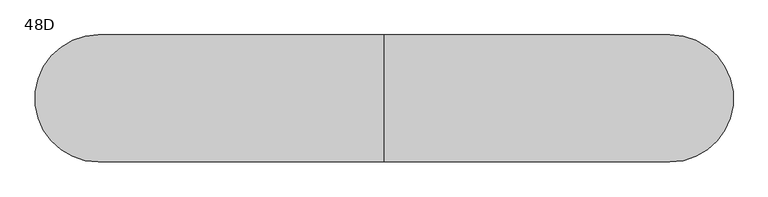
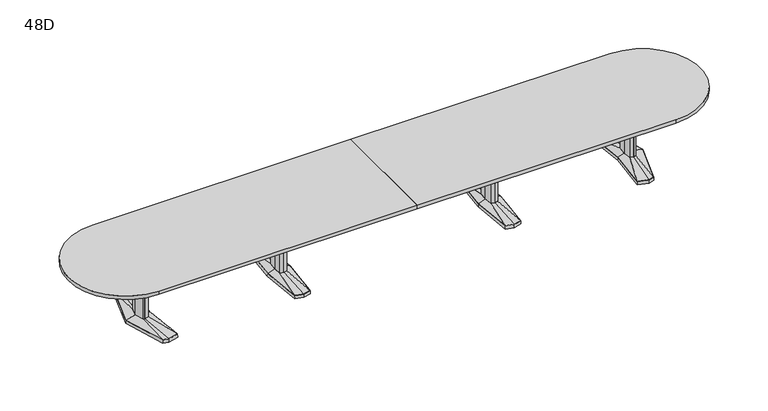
"""IFC4 building model written with IfcOpenShell, lengths in millimetres: furniture geometry, Coalesse_AM_Table_Conference_ETable2_Racetrack_22ft_AluminiumBase : 48D."""

from ifc_helpers import new_model, si_unit, point, frame, frame_2d, origin, place, context, project, spatial, polyline, circle_curve, trimmed, segment, composite_curve, outline, extrude, faceted_brep, source, transform, mapped, element, save
from ifc_brep_helpers import plane_surface, spline_surface, advanced_brep


def furniture_48d_4654b211(model_context):
    return source(origin(), model_context, "Body", "SolidModel", [
        faceted_brep([(1036.3666209, -433.8053819, 38.1), (1117.6, -455.556576, 38.1), (1198.8333791, -433.8053819, 38.1), (1236.6564774, 0.0, 38.1), (1198.8333791, 433.8053819, 38.1), (1117.6, 455.556576, 38.1), (1036.3666209, 433.8053819, 38.1), (998.5435226, 0.0, 38.1), (1034.8817205, -435.0512063, 3.175), (996.95, 0.0, 3.175), (1034.8817205, 435.0512063, 3.175), (1117.6, 457.2, 3.175), (1200.3182795, 435.0512063, 3.175), (1238.25, 0.0, 3.175), (1200.3182795, -435.0512063, 3.175), (1117.6, -457.2, 3.175), (1117.6, 429.2617927, 3.175), (1039.6323194, 408.3850278, 3.175), (1042.8980179, 382.9646737, 3.175), (1117.6, 402.9670094, 3.175), (1192.3019821, 382.9646737, 3.175), (1195.5676806, 408.3850278, 3.175), (1117.6, -429.2617927, 3.175), (1195.5676806, -408.3850278, 3.175), (1192.3019821, -382.9646737, 3.175), (1117.6, -402.9670094, 3.175), (1042.8980179, -382.9646737, 3.175), (1039.6323194, -408.3850278, 3.175), (1045.7425738, 114.6326257, 3.175), (1035.0573924, 0.0, 3.175), (1045.7425738, -114.6326257, 3.175), (1117.6, -133.8761372, 3.175), (1189.4574262, -114.6326257, 3.175), (1200.1426076, 0.0, 3.175), (1189.4574262, 114.6326257, 3.175), (1117.6, 133.8761372, 3.175), (1117.6, 429.2617927, 0.0), (1195.5676806, 408.3850278, 0.0), (1192.3019821, 382.9646737, 0.0), (1117.6, 402.9670094, 0.0), (1042.8980179, 382.9646737, 0.0), (1039.6323194, 408.3850278, 0.0), (1117.6, -429.2617927, 0.0), (1039.6323194, -408.3850278, 0.0), (1042.8980179, -382.9646737, 0.0), (1117.6, -402.9670094, 0.0), (1192.3019821, -382.9646737, 0.0), (1195.5676806, -408.3850278, 0.0), (1045.7425738, 114.6326257, 0.0), (1117.6, 133.8761372, 0.0), (1189.4574262, 114.6326257, 0.0), (1200.1426076, 0.0, 0.0), (1189.4574262, -114.6326257, 0.0), (1117.6, -133.8761372, 0.0), (1045.7425738, -114.6326257, 0.0), (1035.0573924, 0.0, 0.0)], [[[0, 1, 2, 3, 4, 5, 6, 7]], [[8, 9, 10, 11, 12, 13, 14, 15], [16, 17, 18, 19, 20, 21], [22, 23, 24, 25, 26, 27], [28, 29, 30, 31, 32, 33, 34, 35]], [[1, 0, 8, 15]], [[2, 1, 15, 14]], [[3, 2, 14, 13]], [[4, 3, 13, 12]], [[5, 4, 12, 11]], [[6, 5, 11, 10]], [[7, 6, 10, 9]], [[0, 7, 9, 8]], [[36, 37, 38, 39, 40, 41]], [[42, 43, 44, 45, 46, 47]], [[48, 49, 50, 51, 52, 53, 54, 55]], [[36, 41, 17, 16]], [[41, 40, 18, 17]], [[40, 39, 19, 18]], [[39, 38, 20, 19]], [[38, 37, 21, 20]], [[37, 36, 16, 21]], [[42, 47, 23, 22]], [[47, 46, 24, 23]], [[46, 45, 25, 24]], [[45, 44, 26, 25]], [[44, 43, 27, 26]], [[43, 42, 22, 27]], [[48, 55, 29, 28]], [[55, 54, 30, 29]], [[54, 53, 31, 30]], [[53, 52, 32, 31]], [[52, 51, 33, 32]], [[51, 50, 34, 33]], [[50, 49, 35, 34]], [[49, 48, 28, 35]]]),
        faceted_brep([(1081.2167166, 84.6900825, 698.5), (1073.3225513, 0.0, 698.5), (1081.2167166, -84.6900825, 698.5), (1117.6, -94.4335728, 698.5), (1153.9832834, -84.6900825, 698.5), (1161.8774487, 0.0, 698.5), (1153.9832834, 84.6900825, 698.5), (1117.6, 94.4335728, 698.5), (1081.2167166, 84.6900825, 63.5), (1117.6, 94.4335728, 63.5), (1153.9832834, 84.6900825, 63.5), (1161.8774487, 0.0, 63.5), (1153.9832834, -84.6900825, 63.5), (1117.6, -94.4335728, 63.5), (1081.2167166, -84.6900825, 63.5), (1073.3225513, 0.0, 63.5)], [[[0, 1, 2, 3, 4, 5, 6, 7]], [[8, 9, 10, 11, 12, 13, 14, 15]], [[1, 0, 8, 15]], [[2, 1, 15, 14]], [[3, 2, 14, 13]], [[4, 3, 13, 12]], [[5, 4, 12, 11]], [[6, 5, 11, 10]], [[7, 6, 10, 9]], [[0, 7, 9, 8]]]),
        advanced_brep(
        [(1081.2167166, 84.6900825, 63.5), (1073.3225513, 0.0, 63.5), (1081.2167166, -84.6900825, 63.5), (1117.6, -94.4335728, 63.5), (1153.9832834, -84.6900825, 63.5), (1161.8774487, 0.0, 63.5), (1153.9832834, 84.6900825, 63.5), (1117.6, 94.4335728, 63.5), (1036.3666209, 433.8053819, 38.1), (1117.6, 455.556576, 38.1), (1198.8333791, 433.8053819, 38.1), (1236.6564774, 0.0, 38.1), (1198.8333791, -433.8053819, 38.1), (1117.6, -455.556576, 38.1), (1036.3666209, -433.8053819, 38.1), (998.5435226, 0.0, 38.1)],
        [
            (0, 1),
            (1, 2),
            (2, 3),
            (3, 4),
            (4, 5),
            (5, 6),
            (6, 7),
            (7, 0),
            (8, 9),
            (9, 10),
            (10, 11),
            (11, 12),
            (12, 13),
            (13, 14),
            (14, 15),
            (15, 8),
            (15, 1),
            (0, 8),
            (14, 2),
            (13, 3),
            (12, 4),
            (11, 5),
            (10, 6),
            (9, 7),
        ],
        [
            plane_surface(frame((1117.6, 0.0, 63.5), z_axis=(0.0, 0.0, 1.0000000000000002), x_axis=(-0.9659615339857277, -0.25868574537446, 0.0))),
            plane_surface(frame((1117.6, 0.0, 38.1), z_axis=(0.0, 0.0, -1.0000000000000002), x_axis=(-0.9659615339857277, -0.25868574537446, 0.0))),
            spline_surface(1, 1, [[(1036.3666209, 433.8053819, 38.1), (1081.2167166, 84.6900825, 63.5)], [(998.5435226, 0.0, 38.1), (1073.3225513, 0.0, 63.5)]], [2, 2], [2, 2], [0.0, 1.0], [0.0, 1.0]),
            spline_surface(1, 1, [[(998.5435226, 0.0, 38.1), (1073.3225513, 0.0, 63.5)], [(1036.3666209, -433.8053819, 38.1), (1081.2167166, -84.6900825, 63.5)]], [2, 2], [2, 2], [0.0, 1.0], [0.0, 1.0]),
            spline_surface(1, 1, [[(1036.3666209, -433.8053819, 38.1), (1081.2167166, -84.6900825, 63.5)], [(1117.6, -455.556576, 38.1), (1117.6, -94.4335728, 63.5)]], [2, 2], [2, 2], [0.0, 1.0], [0.0, 1.0]),
            spline_surface(1, 1, [[(1117.6, -455.556576, 38.1), (1117.6, -94.4335728, 63.5)], [(1198.8333791, -433.8053819, 38.1), (1153.9832834, -84.6900825, 63.5)]], [2, 2], [2, 2], [0.0, 1.0], [0.0, 1.0]),
            spline_surface(1, 1, [[(1198.8333791, -433.8053819, 38.1), (1153.9832834, -84.6900825, 63.5)], [(1236.6564774, 0.0, 38.1), (1161.8774487, 0.0, 63.5)]], [2, 2], [2, 2], [0.0, 1.0], [0.0, 1.0]),
            spline_surface(1, 1, [[(1236.6564774, 0.0, 38.1), (1161.8774487, 0.0, 63.5)], [(1198.8333791, 433.8053819, 38.1), (1153.9832834, 84.6900825, 63.5)]], [2, 2], [2, 2], [0.0, 1.0], [0.0, 1.0]),
            spline_surface(1, 1, [[(1198.8333791, 433.8053819, 38.1), (1153.9832834, 84.6900825, 63.5)], [(1117.6, 455.556576, 38.1), (1117.6, 94.4335728, 63.5)]], [2, 2], [2, 2], [0.0, 1.0], [0.0, 1.0]),
            spline_surface(1, 1, [[(1117.6, 455.556576, 38.1), (1117.6, 94.4335728, 63.5)], [(1036.3666209, 433.8053819, 38.1), (1081.2167166, 84.6900825, 63.5)]], [2, 2], [2, 2], [0.0, 1.0], [0.0, 1.0]),
        ],
        [
            (0, [[1, 2, 3, 4, 5, 6, 7, 8]]),
            (1, [[9, 10, 11, 12, 13, 14, 15, 16]]),
            (2, [[-16, 17, -1, 18]]),
            (3, [[-15, 19, -2, -17]]),
            (4, [[-14, 20, -3, -19]]),
            (5, [[-13, 21, -4, -20]]),
            (6, [[-12, 22, -5, -21]]),
            (7, [[-11, 23, -6, -22]]),
            (8, [[-10, 24, -7, -23]]),
            (9, [[-9, -18, -8, -24]]),
        ],
    ),
        faceted_brep([(-1198.8333791, -433.8053819, 38.1), (-1117.6, -455.556576, 38.1), (-1036.3666209, -433.8053819, 38.1), (-998.5435226, 0.0, 38.1), (-1036.3666209, 433.8053819, 38.1), (-1117.6, 455.556576, 38.1), (-1198.8333791, 433.8053819, 38.1), (-1236.6564774, 0.0, 38.1), (-1200.3182795, -435.0512063, 3.175), (-1238.25, 0.0, 3.175), (-1200.3182795, 435.0512063, 3.175), (-1117.6, 457.2, 3.175), (-1034.8817205, 435.0512063, 3.175), (-996.95, 0.0, 3.175), (-1034.8817205, -435.0512063, 3.175), (-1117.6, -457.2, 3.175), (-1117.6, 429.2617927, 3.175), (-1195.5676806, 408.3850278, 3.175), (-1192.3019821, 382.9646737, 3.175), (-1117.6, 402.9670094, 3.175), (-1042.8980179, 382.9646737, 3.175), (-1039.6323194, 408.3850278, 3.175), (-1117.6, -429.2617927, 3.175), (-1039.6323194, -408.3850278, 3.175), (-1042.8980179, -382.9646737, 3.175), (-1117.6, -402.9670094, 3.175), (-1192.3019821, -382.9646737, 3.175), (-1195.5676806, -408.3850278, 3.175), (-1189.4574262, 114.6326257, 3.175), (-1200.1426076, 0.0, 3.175), (-1189.4574262, -114.6326257, 3.175), (-1117.6, -133.8761372, 3.175), (-1045.7425738, -114.6326257, 3.175), (-1035.0573924, 0.0, 3.175), (-1045.7425738, 114.6326257, 3.175), (-1117.6, 133.8761372, 3.175), (-1117.6, 429.2617927, 0.0), (-1039.6323194, 408.3850278, 0.0), (-1042.8980179, 382.9646737, 0.0), (-1117.6, 402.9670094, 0.0), (-1192.3019821, 382.9646737, 0.0), (-1195.5676806, 408.3850278, 0.0), (-1117.6, -429.2617927, 0.0), (-1195.5676806, -408.3850278, 0.0), (-1192.3019821, -382.9646737, 0.0), (-1117.6, -402.9670094, 0.0), (-1042.8980179, -382.9646737, 0.0), (-1039.6323194, -408.3850278, 0.0), (-1189.4574262, 114.6326257, 0.0), (-1117.6, 133.8761372, 0.0), (-1045.7425738, 114.6326257, 0.0), (-1035.0573924, 0.0, 0.0), (-1045.7425738, -114.6326257, 0.0), (-1117.6, -133.8761372, 0.0), (-1189.4574262, -114.6326257, 0.0), (-1200.1426076, 0.0, 0.0)], [[[0, 1, 2, 3, 4, 5, 6, 7]], [[8, 9, 10, 11, 12, 13, 14, 15], [16, 17, 18, 19, 20, 21], [22, 23, 24, 25, 26, 27], [28, 29, 30, 31, 32, 33, 34, 35]], [[1, 0, 8, 15]], [[2, 1, 15, 14]], [[3, 2, 14, 13]], [[4, 3, 13, 12]], [[5, 4, 12, 11]], [[6, 5, 11, 10]], [[7, 6, 10, 9]], [[0, 7, 9, 8]], [[36, 37, 38, 39, 40, 41]], [[42, 43, 44, 45, 46, 47]], [[48, 49, 50, 51, 52, 53, 54, 55]], [[36, 41, 17, 16]], [[41, 40, 18, 17]], [[40, 39, 19, 18]], [[39, 38, 20, 19]], [[38, 37, 21, 20]], [[37, 36, 16, 21]], [[42, 47, 23, 22]], [[47, 46, 24, 23]], [[46, 45, 25, 24]], [[45, 44, 26, 25]], [[44, 43, 27, 26]], [[43, 42, 22, 27]], [[48, 55, 29, 28]], [[55, 54, 30, 29]], [[54, 53, 31, 30]], [[53, 52, 32, 31]], [[52, 51, 33, 32]], [[51, 50, 34, 33]], [[50, 49, 35, 34]], [[49, 48, 28, 35]]]),
        faceted_brep([(-1153.9832834, 84.6900825, 698.5), (-1161.8774487, 0.0, 698.5), (-1153.9832834, -84.6900825, 698.5), (-1117.6, -94.4335728, 698.5), (-1081.2167166, -84.6900825, 698.5), (-1073.3225513, 0.0, 698.5), (-1081.2167166, 84.6900825, 698.5), (-1117.6, 94.4335728, 698.5), (-1153.9832834, 84.6900825, 63.5), (-1117.6, 94.4335728, 63.5), (-1081.2167166, 84.6900825, 63.5), (-1073.3225513, 0.0, 63.5), (-1081.2167166, -84.6900825, 63.5), (-1117.6, -94.4335728, 63.5), (-1153.9832834, -84.6900825, 63.5), (-1161.8774487, 0.0, 63.5)], [[[0, 1, 2, 3, 4, 5, 6, 7]], [[8, 9, 10, 11, 12, 13, 14, 15]], [[1, 0, 8, 15]], [[2, 1, 15, 14]], [[3, 2, 14, 13]], [[4, 3, 13, 12]], [[5, 4, 12, 11]], [[6, 5, 11, 10]], [[7, 6, 10, 9]], [[0, 7, 9, 8]]]),
        advanced_brep(
        [(-1153.9832834, 84.6900825, 63.5), (-1161.8774487, 0.0, 63.5), (-1153.9832834, -84.6900825, 63.5), (-1117.6, -94.4335728, 63.5), (-1081.2167166, -84.6900825, 63.5), (-1073.3225513, 0.0, 63.5), (-1081.2167166, 84.6900825, 63.5), (-1117.6, 94.4335728, 63.5), (-1198.8333791, 433.8053819, 38.1), (-1117.6, 455.556576, 38.1), (-1036.3666209, 433.8053819, 38.1), (-998.5435226, 0.0, 38.1), (-1036.3666209, -433.8053819, 38.1), (-1117.6, -455.556576, 38.1), (-1198.8333791, -433.8053819, 38.1), (-1236.6564774, 0.0, 38.1)],
        [
            (0, 1),
            (1, 2),
            (2, 3),
            (3, 4),
            (4, 5),
            (5, 6),
            (6, 7),
            (7, 0),
            (8, 9),
            (9, 10),
            (10, 11),
            (11, 12),
            (12, 13),
            (13, 14),
            (14, 15),
            (15, 8),
            (15, 1),
            (0, 8),
            (14, 2),
            (13, 3),
            (12, 4),
            (11, 5),
            (10, 6),
            (9, 7),
        ],
        [
            plane_surface(frame((-1117.6, 0.0, 63.5), z_axis=(0.0, 0.0, 1.0000000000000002), x_axis=(-0.9659615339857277, -0.25868574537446, 0.0))),
            plane_surface(frame((-1117.6, 0.0, 38.1), z_axis=(0.0, 0.0, -1.0000000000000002), x_axis=(-0.9659615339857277, -0.25868574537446, 0.0))),
            spline_surface(1, 1, [[(-1198.8333791, 433.8053819, 38.1), (-1153.9832834, 84.6900825, 63.5)], [(-1236.6564774, 0.0, 38.1), (-1161.8774487, 0.0, 63.5)]], [2, 2], [2, 2], [0.0, 1.0], [0.0, 1.0]),
            spline_surface(1, 1, [[(-1236.6564774, 0.0, 38.1), (-1161.8774487, 0.0, 63.5)], [(-1198.8333791, -433.8053819, 38.1), (-1153.9832834, -84.6900825, 63.5)]], [2, 2], [2, 2], [0.0, 1.0], [0.0, 1.0]),
            spline_surface(1, 1, [[(-1198.8333791, -433.8053819, 38.1), (-1153.9832834, -84.6900825, 63.5)], [(-1117.6, -455.556576, 38.1), (-1117.6, -94.4335728, 63.5)]], [2, 2], [2, 2], [0.0, 1.0], [0.0, 1.0]),
            spline_surface(1, 1, [[(-1117.6, -455.556576, 38.1), (-1117.6, -94.4335728, 63.5)], [(-1036.3666209, -433.8053819, 38.1), (-1081.2167166, -84.6900825, 63.5)]], [2, 2], [2, 2], [0.0, 1.0], [0.0, 1.0]),
            spline_surface(1, 1, [[(-1036.3666209, -433.8053819, 38.1), (-1081.2167166, -84.6900825, 63.5)], [(-998.5435226, 0.0, 38.1), (-1073.3225513, 0.0, 63.5)]], [2, 2], [2, 2], [0.0, 1.0], [0.0, 1.0]),
            spline_surface(1, 1, [[(-998.5435226, 0.0, 38.1), (-1073.3225513, 0.0, 63.5)], [(-1036.3666209, 433.8053819, 38.1), (-1081.2167166, 84.6900825, 63.5)]], [2, 2], [2, 2], [0.0, 1.0], [0.0, 1.0]),
            spline_surface(1, 1, [[(-1036.3666209, 433.8053819, 38.1), (-1081.2167166, 84.6900825, 63.5)], [(-1117.6, 455.556576, 38.1), (-1117.6, 94.4335728, 63.5)]], [2, 2], [2, 2], [0.0, 1.0], [0.0, 1.0]),
            spline_surface(1, 1, [[(-1117.6, 455.556576, 38.1), (-1117.6, 94.4335728, 63.5)], [(-1198.8333791, 433.8053819, 38.1), (-1153.9832834, 84.6900825, 63.5)]], [2, 2], [2, 2], [0.0, 1.0], [0.0, 1.0]),
        ],
        [
            (0, [[1, 2, 3, 4, 5, 6, 7, 8]]),
            (1, [[9, 10, 11, 12, 13, 14, 15, 16]]),
            (2, [[-16, 17, -1, 18]]),
            (3, [[-15, 19, -2, -17]]),
            (4, [[-14, 20, -3, -19]]),
            (5, [[-13, 21, -4, -20]]),
            (6, [[-12, 22, -5, -21]]),
            (7, [[-11, 23, -6, -22]]),
            (8, [[-10, 24, -7, -23]]),
            (9, [[-9, -18, -8, -24]]),
        ],
    ),
        faceted_brep([(2548.0994335, 455.5848221, 38.1), (2438.5218777, 426.2263816, 38.1), (2479.6851217, 0.0, 38.1), (2438.5218777, -426.2263816, 38.1), (2548.0994335, -455.5848221, 38.1), (2604.2257896, -440.5478297, 38.1), (2741.5371769, 0.0, 38.1), (2604.2257896, 440.5478297, 38.1), (2548.0994254, 457.2283104, 3.175), (2605.4811972, 441.8549756, 3.175), (2743.2, 0.0, 3.175), (2605.4811972, -441.8549756, 3.175), (2548.0994254, -457.2283104, 3.175), (2436.8125, -427.4118891, 3.175), (2478.0902356, 0.0, 3.175), (2436.8125, 427.4118891, 3.175), (2551.688865, 428.3273875, 3.175), (2446.6405728, 402.1057253, 3.175), (2454.759268, 377.985069, 3.175), (2555.2782966, 401.0699529, 3.175), (2605.8379225, 387.524361, 3.175), (2605.0318561, 414.0360954, 3.175), (2551.688865, -428.3273875, 3.175), (2605.0318561, -414.0360954, 3.175), (2605.8379225, -387.524361, 3.175), (2555.2782966, -401.0699529, 3.175), (2454.759268, -377.985069, 3.175), (2446.6405728, -402.1057253, 3.175), (2678.2841121, 0.0, 3.175), (2646.0147111, 120.4193755, 3.175), (2597.3674722, 133.471665, 3.175), (2517.4868026, 119.4176561, 3.175), (2506.3555966, 0.0, 3.175), (2517.4868026, -119.4176561, 3.175), (2597.3674722, -133.471665, 3.175), (2646.0147111, -120.4193755, 3.175), (2551.688865, 428.3273875, 0.0), (2605.0318561, 414.0360954, 0.0), (2605.8379225, 387.524361, 0.0), (2555.2782966, 401.0699529, 0.0), (2454.759268, 377.985069, 0.0), (2446.6405728, 402.1057253, 0.0), (2551.688865, -428.3273875, 0.0), (2446.6405728, -402.1057253, 0.0), (2454.759268, -377.985069, 0.0), (2555.2782966, -401.0699529, 0.0), (2605.8379225, -387.524361, 0.0), (2605.0318561, -414.0360954, 0.0), (2678.2841121, 0.0, 0.0), (2646.0147111, -120.4193755, 0.0), (2597.3674722, -133.471665, 0.0), (2517.4868026, -119.4176561, 0.0), (2506.3555966, 0.0, 0.0), (2517.4868026, 119.4176561, 0.0), (2597.3674722, 133.471665, 0.0), (2646.0147111, 120.4193755, 0.0)], [[[0, 1, 2, 3, 4, 5, 6, 7]], [[8, 9, 10, 11, 12, 13, 14, 15], [16, 17, 18, 19, 20, 21], [22, 23, 24, 25, 26, 27], [28, 29, 30, 31, 32, 33, 34, 35]], [[7, 9, 8, 0]], [[6, 10, 9, 7]], [[5, 11, 10, 6]], [[4, 12, 11, 5]], [[3, 13, 12, 4]], [[2, 14, 13, 3]], [[1, 15, 14, 2]], [[0, 8, 15, 1]], [[36, 37, 38, 39, 40, 41]], [[42, 43, 44, 45, 46, 47]], [[48, 49, 50, 51, 52, 53, 54, 55]], [[36, 16, 21, 37]], [[37, 21, 20, 38]], [[38, 20, 19, 39]], [[39, 19, 18, 40]], [[40, 18, 17, 41]], [[41, 17, 16, 36]], [[42, 22, 27, 43]], [[43, 27, 26, 44]], [[44, 26, 25, 45]], [[45, 25, 24, 46]], [[46, 24, 23, 47]], [[47, 23, 22, 42]], [[48, 28, 35, 49]], [[49, 35, 34, 50]], [[50, 34, 33, 51]], [[51, 33, 32, 52]], [[52, 32, 31, 53]], [[53, 31, 30, 54]], [[54, 30, 29, 55]], [[55, 29, 28, 48]]]),
        faceted_brep([(2638.8398336, 0.0, 698.5), (2614.9046046, 89.3188359, 698.5), (2598.0512484, 93.8406728, 698.5), (2595.6514011, 94.4845635, 698.5), (2552.723896, 86.9320037, 698.5), (2544.6207556, 0.0, 698.5), (2552.723896, -86.9320037, 698.5), (2595.6514011, -94.4845635, 698.5), (2598.0512484, -93.8406728, 698.5), (2614.9046046, -89.3188359, 698.5), (2638.8398336, 0.0, 63.5), (2614.9046046, -89.3188359, 63.5), (2598.0512484, -93.8406728, 63.5), (2595.6514011, -94.4845635, 63.5), (2552.723896, -86.9320037, 63.5), (2544.6207556, 0.0, 63.5), (2552.723896, 86.9320037, 63.5), (2595.6514011, 94.4845635, 63.5), (2598.0512484, 93.8406728, 63.5), (2614.9046046, 89.3188359, 63.5)], [[[0, 1, 2, 3, 4, 5, 6, 7, 8, 9]], [[10, 11, 12, 13, 14, 15, 16, 17, 18, 19]], [[9, 11, 10, 0]], [[8, 12, 11, 9]], [[7, 13, 12, 8]], [[6, 14, 13, 7]], [[5, 15, 14, 6]], [[4, 16, 15, 5]], [[3, 17, 16, 4]], [[2, 18, 17, 3]], [[1, 19, 18, 2]], [[0, 10, 19, 1]]]),
        advanced_brep(
        [(2595.6514011, 94.4845635, 63.5), (2552.723896, 86.9320037, 63.5), (2544.6207556, 0.0, 63.5), (2552.723896, -86.9320037, 63.5), (2595.6514011, -94.4845635, 63.5), (2614.9046046, -89.3188359, 63.5), (2638.8398336, 0.0, 63.5), (2614.9046046, 89.3188359, 63.5), (2548.0994335, 455.5848221, 38.1), (2604.2257896, 440.5478297, 38.1), (2741.5371769, 0.0, 38.1), (2604.2257896, -440.5478297, 38.1), (2548.0994335, -455.5848221, 38.1), (2438.5218777, -426.2263816, 38.1), (2479.6851217, 0.0, 38.1), (2438.5218777, 426.2263816, 38.1)],
        [
            (0, 1),
            (1, 2),
            (2, 3),
            (3, 4),
            (4, 5),
            (5, 6),
            (6, 7),
            (7, 0),
            (8, 9),
            (9, 10),
            (10, 11),
            (11, 12),
            (12, 13),
            (13, 14),
            (14, 15),
            (15, 8),
            (8, 0),
            (7, 9),
            (6, 10),
            (5, 11),
            (4, 12),
            (3, 13),
            (2, 14),
            (1, 15),
        ],
        [
            plane_surface(frame((2588.7525491, 0.0, 63.5), z_axis=(0.0, 0.0, 1.0), x_axis=(-0.25884244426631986, -0.9659195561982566, 0.0))),
            plane_surface(frame((2550.3645625, 0.0, 38.1), z_axis=(0.0, 0.0, -1.0), x_axis=(-0.25884244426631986, -0.9659195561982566, 0.0))),
            spline_surface(1, 1, [[(2548.0994335, 455.5848221, 38.1), (2604.2257896, 440.5478297, 38.1)], [(2595.6514011, 94.4845635, 63.5), (2614.9046046, 89.3188359, 63.5)]], [2, 2], [2, 2], [0.0, 1.0], [0.0, 1.0]),
            spline_surface(1, 1, [[(2604.2257896, 440.5478297, 38.1), (2741.5371769, 0.0, 38.1)], [(2614.9046046, 89.3188359, 63.5), (2638.8398336, 0.0, 63.5)]], [2, 2], [2, 2], [0.0, 1.0], [0.0, 1.0]),
            spline_surface(1, 1, [[(2741.5371769, 0.0, 38.1), (2604.2257896, -440.5478297, 38.1)], [(2638.8398336, 0.0, 63.5), (2614.9046046, -89.3188359, 63.5)]], [2, 2], [2, 2], [0.0, 1.0], [0.0, 1.0]),
            spline_surface(1, 1, [[(2604.2257896, -440.5478297, 38.1), (2548.0994335, -455.5848221, 38.1)], [(2614.9046046, -89.3188359, 63.5), (2595.6514011, -94.4845635, 63.5)]], [2, 2], [2, 2], [0.0, 1.0], [0.0, 1.0]),
            spline_surface(1, 1, [[(2548.0994335, -455.5848221, 38.1), (2438.5218777, -426.2263816, 38.1)], [(2595.6514011, -94.4845635, 63.5), (2552.723896, -86.9320037, 63.5)]], [2, 2], [2, 2], [0.0, 1.0], [0.0, 1.0]),
            spline_surface(1, 1, [[(2438.5218777, -426.2263816, 38.1), (2479.6851217, 0.0, 38.1)], [(2552.723896, -86.9320037, 63.5), (2544.6207556, 0.0, 63.5)]], [2, 2], [2, 2], [0.0, 1.0], [0.0, 1.0]),
            spline_surface(1, 1, [[(2479.6851217, 0.0, 38.1), (2438.5218777, 426.2263816, 38.1)], [(2544.6207556, 0.0, 63.5), (2552.723896, 86.9320037, 63.5)]], [2, 2], [2, 2], [0.0, 1.0], [0.0, 1.0]),
            spline_surface(1, 1, [[(2438.5218777, 426.2263816, 38.1), (2548.0994335, 455.5848221, 38.1)], [(2552.723896, 86.9320037, 63.5), (2595.6514011, 94.4845635, 63.5)]], [2, 2], [2, 2], [0.0, 1.0], [0.0, 1.0]),
        ],
        [
            (0, [[1, 2, 3, 4, 5, 6, 7, 8]]),
            (1, [[9, 10, 11, 12, 13, 14, 15, 16]]),
            (2, [[17, -8, 18, -9]]),
            (3, [[-18, -7, 19, -10]]),
            (4, [[-19, -6, 20, -11]]),
            (5, [[-20, -5, 21, -12]]),
            (6, [[-21, -4, 22, -13]]),
            (7, [[-22, -3, 23, -14]]),
            (8, [[-23, -2, 24, -15]]),
            (9, [[-24, -1, -17, -16]]),
        ],
    ),
        faceted_brep([(-2548.0994335, 455.5848221, 38.1), (-2604.2257896, 440.5478297, 38.1), (-2741.5371769, 0.0, 38.1), (-2604.2257896, -440.5478297, 38.1), (-2548.0994335, -455.5848221, 38.1), (-2438.5218777, -426.2263816, 38.1), (-2479.6851217, 0.0, 38.1), (-2438.5218777, 426.2263816, 38.1), (-2548.0994254, 457.2283104, 3.175), (-2436.8125, 427.4118891, 3.175), (-2478.0902356, 0.0, 3.175), (-2436.8125, -427.4118891, 3.175), (-2548.0994254, -457.2283104, 3.175), (-2605.4811972, -441.8549756, 3.175), (-2743.2, 0.0, 3.175), (-2605.4811972, 441.8549756, 3.175), (-2551.688865, 428.3273875, 3.175), (-2605.0318561, 414.0360954, 3.175), (-2605.8379225, 387.524361, 3.175), (-2555.2782966, 401.0699529, 3.175), (-2454.759268, 377.985069, 3.175), (-2446.6405728, 402.1057253, 3.175), (-2551.688865, -428.3273875, 3.175), (-2446.6405728, -402.1057253, 3.175), (-2454.759268, -377.985069, 3.175), (-2555.2782966, -401.0699529, 3.175), (-2605.8379225, -387.524361, 3.175), (-2605.0318561, -414.0360954, 3.175), (-2678.2841121, 0.0, 3.175), (-2646.0147111, -120.4193755, 3.175), (-2597.3674722, -133.471665, 3.175), (-2517.4868026, -119.4176561, 3.175), (-2506.3555966, 0.0, 3.175), (-2517.4868026, 119.4176561, 3.175), (-2597.3674722, 133.471665, 3.175), (-2646.0147111, 120.4193755, 3.175), (-2551.688865, 428.3273875, 0.0), (-2446.6405728, 402.1057253, 0.0), (-2454.759268, 377.985069, 0.0), (-2555.2782966, 401.0699529, 0.0), (-2605.8379225, 387.524361, 0.0), (-2605.0318561, 414.0360954, 0.0), (-2551.688865, -428.3273875, 0.0), (-2605.0318561, -414.0360954, 0.0), (-2605.8379225, -387.524361, 0.0), (-2555.2782966, -401.0699529, 0.0), (-2454.759268, -377.985069, 0.0), (-2446.6405728, -402.1057253, 0.0), (-2678.2841121, 0.0, 0.0), (-2646.0147111, 120.4193755, 0.0), (-2597.3674722, 133.471665, 0.0), (-2517.4868026, 119.4176561, 0.0), (-2506.3555966, 0.0, 0.0), (-2517.4868026, -119.4176561, 0.0), (-2597.3674722, -133.471665, 0.0), (-2646.0147111, -120.4193755, 0.0)], [[[0, 1, 2, 3, 4, 5, 6, 7]], [[8, 9, 10, 11, 12, 13, 14, 15], [16, 17, 18, 19, 20, 21], [22, 23, 24, 25, 26, 27], [28, 29, 30, 31, 32, 33, 34, 35]], [[1, 0, 8, 15]], [[2, 1, 15, 14]], [[3, 2, 14, 13]], [[4, 3, 13, 12]], [[5, 4, 12, 11]], [[6, 5, 11, 10]], [[7, 6, 10, 9]], [[0, 7, 9, 8]], [[36, 37, 38, 39, 40, 41]], [[42, 43, 44, 45, 46, 47]], [[48, 49, 50, 51, 52, 53, 54, 55]], [[36, 41, 17, 16]], [[41, 40, 18, 17]], [[40, 39, 19, 18]], [[39, 38, 20, 19]], [[38, 37, 21, 20]], [[37, 36, 16, 21]], [[42, 47, 23, 22]], [[47, 46, 24, 23]], [[46, 45, 25, 24]], [[45, 44, 26, 25]], [[44, 43, 27, 26]], [[43, 42, 22, 27]], [[48, 55, 29, 28]], [[55, 54, 30, 29]], [[54, 53, 31, 30]], [[53, 52, 32, 31]], [[52, 51, 33, 32]], [[51, 50, 34, 33]], [[50, 49, 35, 34]], [[49, 48, 28, 35]]]),
        faceted_brep([(-2638.8398336, 0.0, 698.5), (-2614.9046046, -89.3188359, 698.5), (-2598.0512484, -93.8406728, 698.5), (-2595.6514011, -94.4845635, 698.5), (-2552.723896, -86.9320037, 698.5), (-2544.6207556, 0.0, 698.5), (-2552.723896, 86.9320037, 698.5), (-2595.6514011, 94.4845635, 698.5), (-2598.0512484, 93.8406728, 698.5), (-2614.9046046, 89.3188359, 698.5), (-2638.8398336, 0.0, 63.5), (-2614.9046046, 89.3188359, 63.5), (-2598.0512484, 93.8406728, 63.5), (-2595.6514011, 94.4845635, 63.5), (-2552.723896, 86.9320037, 63.5), (-2544.6207556, 0.0, 63.5), (-2552.723896, -86.9320037, 63.5), (-2595.6514011, -94.4845635, 63.5), (-2598.0512484, -93.8406728, 63.5), (-2614.9046046, -89.3188359, 63.5)], [[[0, 1, 2, 3, 4, 5, 6, 7, 8, 9]], [[10, 11, 12, 13, 14, 15, 16, 17, 18, 19]], [[1, 0, 10, 19]], [[2, 1, 19, 18]], [[3, 2, 18, 17]], [[4, 3, 17, 16]], [[5, 4, 16, 15]], [[6, 5, 15, 14]], [[7, 6, 14, 13]], [[8, 7, 13, 12]], [[9, 8, 12, 11]], [[0, 9, 11, 10]]]),
        advanced_brep(
        [(-2595.6514011, 94.4845635, 63.5), (-2614.9046046, 89.3188359, 63.5), (-2638.8398336, 0.0, 63.5), (-2614.9046046, -89.3188359, 63.5), (-2595.6514011, -94.4845635, 63.5), (-2552.723896, -86.9320037, 63.5), (-2544.6207556, 0.0, 63.5), (-2552.723896, 86.9320037, 63.5), (-2548.0994335, 455.5848221, 38.1), (-2438.5218777, 426.2263816, 38.1), (-2479.6851217, 0.0, 38.1), (-2438.5218777, -426.2263816, 38.1), (-2548.0994335, -455.5848221, 38.1), (-2604.2257896, -440.5478297, 38.1), (-2741.5371769, 0.0, 38.1), (-2604.2257896, 440.5478297, 38.1)],
        [
            (0, 1),
            (1, 2),
            (2, 3),
            (3, 4),
            (4, 5),
            (5, 6),
            (6, 7),
            (7, 0),
            (8, 9),
            (9, 10),
            (10, 11),
            (11, 12),
            (12, 13),
            (13, 14),
            (14, 15),
            (15, 8),
            (15, 1),
            (0, 8),
            (14, 2),
            (13, 3),
            (12, 4),
            (11, 5),
            (10, 6),
            (9, 7),
        ],
        [
            plane_surface(frame((-2588.7525491, 0.0, 63.5), z_axis=(0.0, 0.0, 1.0), x_axis=(0.25884244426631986, -0.9659195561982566, 0.0))),
            plane_surface(frame((-2550.3645625, 0.0, 38.1), z_axis=(0.0, 0.0, -1.0), x_axis=(0.25884244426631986, -0.9659195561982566, 0.0))),
            spline_surface(1, 1, [[(-2548.0994335, 455.5848221, 38.1), (-2595.6514011, 94.4845635, 63.5)], [(-2604.2257896, 440.5478297, 38.1), (-2614.9046046, 89.3188359, 63.5)]], [2, 2], [2, 2], [0.0, 1.0], [0.0, 1.0]),
            spline_surface(1, 1, [[(-2604.2257896, 440.5478297, 38.1), (-2614.9046046, 89.3188359, 63.5)], [(-2741.5371769, 0.0, 38.1), (-2638.8398336, 0.0, 63.5)]], [2, 2], [2, 2], [0.0, 1.0], [0.0, 1.0]),
            spline_surface(1, 1, [[(-2741.5371769, 0.0, 38.1), (-2638.8398336, 0.0, 63.5)], [(-2604.2257896, -440.5478297, 38.1), (-2614.9046046, -89.3188359, 63.5)]], [2, 2], [2, 2], [0.0, 1.0], [0.0, 1.0]),
            spline_surface(1, 1, [[(-2604.2257896, -440.5478297, 38.1), (-2614.9046046, -89.3188359, 63.5)], [(-2548.0994335, -455.5848221, 38.1), (-2595.6514011, -94.4845635, 63.5)]], [2, 2], [2, 2], [0.0, 1.0], [0.0, 1.0]),
            spline_surface(1, 1, [[(-2548.0994335, -455.5848221, 38.1), (-2595.6514011, -94.4845635, 63.5)], [(-2438.5218777, -426.2263816, 38.1), (-2552.723896, -86.9320037, 63.5)]], [2, 2], [2, 2], [0.0, 1.0], [0.0, 1.0]),
            spline_surface(1, 1, [[(-2438.5218777, -426.2263816, 38.1), (-2552.723896, -86.9320037, 63.5)], [(-2479.6851217, 0.0, 38.1), (-2544.6207556, 0.0, 63.5)]], [2, 2], [2, 2], [0.0, 1.0], [0.0, 1.0]),
            spline_surface(1, 1, [[(-2479.6851217, 0.0, 38.1), (-2544.6207556, 0.0, 63.5)], [(-2438.5218777, 426.2263816, 38.1), (-2552.723896, 86.9320037, 63.5)]], [2, 2], [2, 2], [0.0, 1.0], [0.0, 1.0]),
            spline_surface(1, 1, [[(-2438.5218777, 426.2263816, 38.1), (-2552.723896, 86.9320037, 63.5)], [(-2548.0994335, 455.5848221, 38.1), (-2595.6514011, 94.4845635, 63.5)]], [2, 2], [2, 2], [0.0, 1.0], [0.0, 1.0]),
        ],
        [
            (0, [[1, 2, 3, 4, 5, 6, 7, 8]]),
            (1, [[9, 10, 11, 12, 13, 14, 15, 16]]),
            (2, [[-16, 17, -1, 18]]),
            (3, [[-15, 19, -2, -17]]),
            (4, [[-14, 20, -3, -19]]),
            (5, [[-13, 21, -4, -20]]),
            (6, [[-12, 22, -5, -21]]),
            (7, [[-11, 23, -6, -22]]),
            (8, [[-10, 24, -7, -23]]),
            (9, [[-9, -18, -8, -24]]),
        ],
    ),
        extrude(outline(polyline([(96.8375, 698.5), (103.1875, 698.5), (103.1875, 476.25), (-103.1875, 476.25), (-103.1875, 698.5), (-96.8375, 698.5), (-96.8375, 482.6), (96.8375, 482.6), (96.8375, 698.5)])), frame((-1073.3225513, 0.0, 0.0), z_axis=(1.0, 0.0, 0.0), x_axis=(0.0, 1.0, 0.0)), (0.0, 0.0, 1.0), 2146.6451026),
        extrude(outline(polyline([(96.8375, 698.5), (103.1875, 698.5), (103.1875, 476.25), (-103.1875, 476.25), (-103.1875, 698.5), (-96.8375, 698.5), (-96.8375, 482.6), (96.8375, 482.6), (96.8375, 698.5)])), frame((1161.8774487, 0.0, 0.0), z_axis=(1.0, 0.0, 0.0), x_axis=(0.0, 1.0, 0.0)), (0.0, 0.0, 1.0), 1382.8850513),
        extrude(outline(composite_curve([segment(trimmed(circle_curve(frame_2d((2743.2, 0.0)), 609.6), [point((2743.2, 609.6))], [point((2743.2, -609.6))], False, "CARTESIAN"), True, "CONTINUOUS"), segment(polyline([(2743.2, -609.6), (0.0, -609.6), (0.0, 609.6), (2743.2, 609.6)]), True, "CONTINUOUS")], self_intersect=False)), frame((0.0, 0.0, 698.5), z_axis=(0.0, 0.0, 1.0), x_axis=(1.0, 0.0, 0.0)), (0.0, 0.0, 1.0), 38.1),
        extrude(outline(composite_curve([segment(polyline([(0.0, 609.6), (0.0, -609.6), (-2743.2, -609.6)]), True, "CONTINUOUS"), segment(trimmed(circle_curve(frame_2d((-2743.2, 0.0)), 609.6), [point((-2743.2, -609.6))], [point((-2743.2, 609.6))], False, "CARTESIAN"), True, "CONTINUOUS"), segment(polyline([(-2743.2, 609.6), (0.0, 609.6)]), True, "CONTINUOUS")], self_intersect=False)), frame((0.0, 0.0, 698.5), z_axis=(0.0, 0.0, 1.0), x_axis=(1.0, 0.0, 0.0)), (0.0, 0.0, 1.0), 38.1),
        extrude(outline(polyline([(96.8375, 698.5), (103.1875, 698.5), (103.1875, 476.25), (-103.1875, 476.25), (-103.1875, 698.5), (-96.8375, 698.5), (-96.8375, 482.6), (96.8375, 482.6), (96.8375, 698.5)])), frame((-2544.7625, 0.0, 0.0), z_axis=(1.0, 0.0, 0.0), x_axis=(0.0, 1.0, 0.0)), (0.0, 0.0, 1.0), 1382.8850513),
    ])


if __name__ == "__main__":
    model = new_model("IFC4")
    model_context = context("Model", 3, world=origin())
    ifc_project = project(units=[si_unit("LENGTHUNIT", "METRE", prefix="MILLI")], contexts=[model_context])
    site = spatial("IfcSite", under=ifc_project)
    building = spatial("IfcBuilding", under=site)
    placement = place(None, origin())
    furniture_48d_shape = furniture_48d_4654b211(model_context)
    element("IfcFurniture", 1, ObjectType="Coalesse_AM_Table_Conference_ETable2_Racetrack_22ft_AluminiumBase : 48D", at=placement, inside=building, context=model_context, shape_type="MappedRepresentation", body=[
        mapped(furniture_48d_shape, transform((0.0, 0.0, 0.0), x_axis=(1.0, 0.0, 0.0), y_axis=(0.0, 1.0, 0.0), z_axis=(0.0, 0.0, 1.0))),
    ])
    save(model, "model.ifc")
